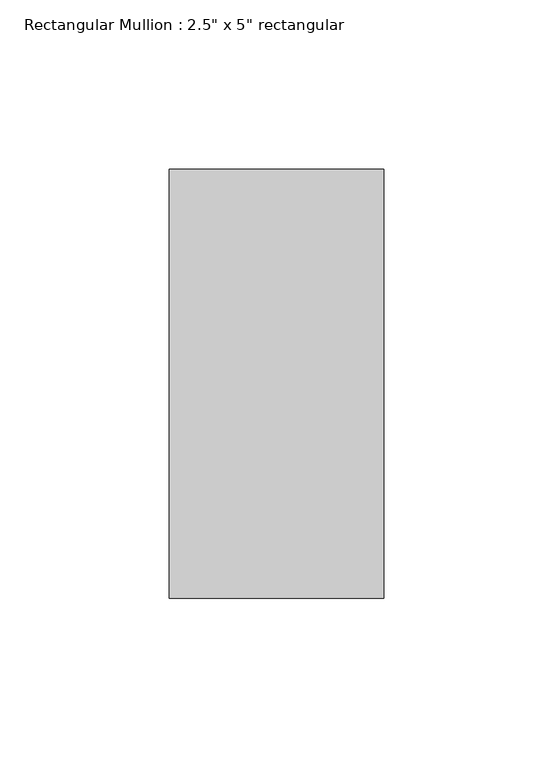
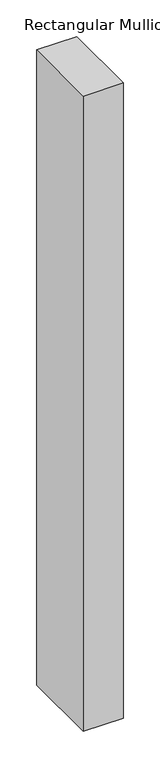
"""IFC4 building model written with IfcOpenShell, lengths in millimetres: member geometry."""

from ifc_helpers import new_model, si_unit, frame, origin, place, context, project, spatial, polyline, outline, extrude, source, transform, mapped, element, save


def member_8faf7429(model_context):
    return source(origin(), model_context, "Body", "SweptSolid", [
        extrude(outline(polyline([(31.75, 63.5), (31.75, -63.5), (-31.75, -63.5), (-31.75, 63.5), (31.75, 63.5)])), frame((0.0, 0.0, -1060.45), z_axis=(0.0, 0.0, 1.0), x_axis=(1.0, 0.0, 0.0)), (0.0, 0.0, 1.0), 1060.45),
    ])


if __name__ == "__main__":
    model = new_model("IFC4")
    model_context = context("Model", 3, world=origin())
    ifc_project = project(units=[si_unit("LENGTHUNIT", "METRE", prefix="MILLI")], contexts=[model_context])
    site = spatial("IfcSite", under=ifc_project)
    building = spatial("IfcBuilding", under=site)
    placement = place(None, origin())
    member_shape = member_8faf7429(model_context)
    element("IfcMember", 1, ObjectType="Rectangular Mullion : 2.5\" x 5\" rectangular", at=placement, inside=building, context=model_context, shape_type="MappedRepresentation", body=[
        mapped(member_shape, transform((0.0, 0.0, 0.0), x_axis=(1.0, 0.0, 0.0), y_axis=(0.0, 1.0, 0.0), z_axis=(0.0, 0.0, 1.0))),
    ])
    save(model, "model.ifc")
